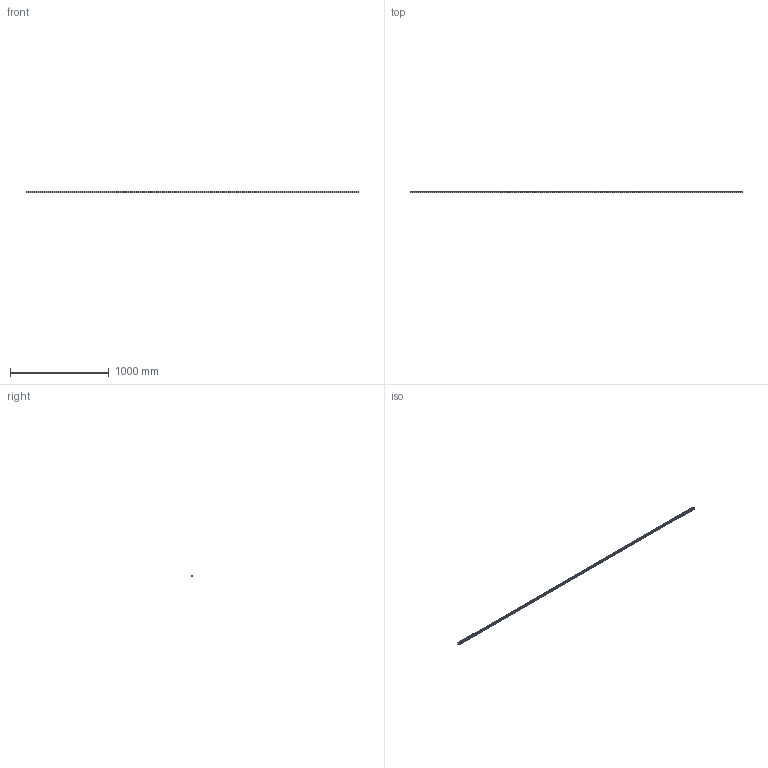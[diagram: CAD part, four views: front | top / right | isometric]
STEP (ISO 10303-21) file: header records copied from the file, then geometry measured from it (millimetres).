
FILE_DESCRIPTION (( 'STEP AP203' ), '1' );
FILE_NAME ('L1018.20R-3360.step', '2023-08-06T09:17:11', ( '' ), ( '' ), 'SwSTEP 2.0', 'SolidWorks 2019', '' );
FILE_SCHEMA (( 'CONFIG_CONTROL_DESIGN' ));
Length unit declared in the file: millimetre
Products named in the file (1): L1018.20R-3360
Bounding box: 3360 x 19.3 x 20 mm (x, y, z)
Volume: 1065551 mm3; surface area: 284207.7 mm2
Topology: 1 solids, 1 shells, 533 faces, 1201 edges, 670 vertices
Faces by surface type: cylinder 227, cone 224, plane 82
Entity records: 14102 total; most frequent: DIRECTION 2723, CARTESIAN_POINT 2293, ORIENTED_EDGE 2178, AXIS2_PLACEMENT_3D 1100, EDGE_CURVE 1089, VERTEX_POINT 670, EDGE_LOOP 645, CIRCLE 566
